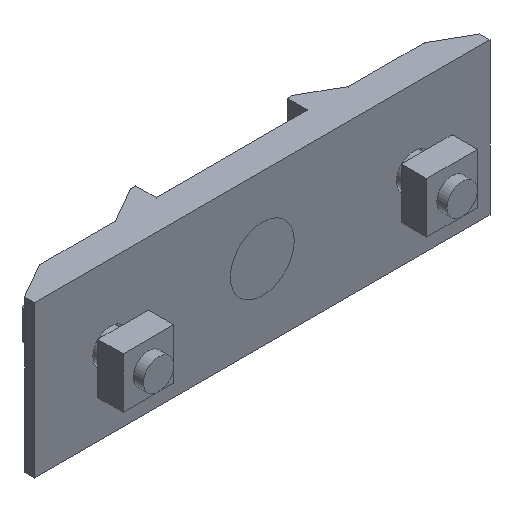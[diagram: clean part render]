
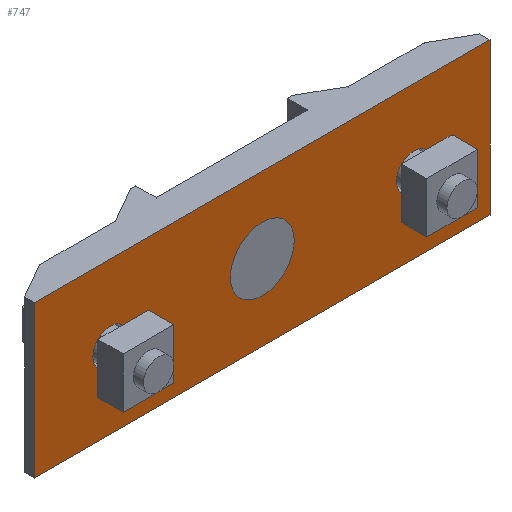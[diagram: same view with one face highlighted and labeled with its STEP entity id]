
A CAD part, isometric view. The second image highlights one B-rep face of the part: STEP entity #747.
In plain terms, the highlighted planar face has unit normal (0, -1, 0).
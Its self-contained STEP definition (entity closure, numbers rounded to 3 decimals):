
#123=CARTESIAN_POINT('',(-33.5,0.0,0.0));
#124=VERTEX_POINT('',#123);
#125=CARTESIAN_POINT('',(-30.,0.0,0.0));
#126=DIRECTION('',(0.0,1.0,0.0));
#127=DIRECTION('',(-1.0,0.0,0.0));
#128=AXIS2_PLACEMENT_3D('',#125,#126,#127);
#129=CIRCLE('',#128,3.5);
#130=EDGE_CURVE('',#124,#124,#129,.T.);
#172=CARTESIAN_POINT('',(33.5,0.0,0.0));
#173=VERTEX_POINT('',#172);
#174=CARTESIAN_POINT('',(30.,0.0,0.0));
#175=DIRECTION('',(0.0,1.0,0.0));
#176=DIRECTION('',(1.0,0.0,0.0));
#177=AXIS2_PLACEMENT_3D('',#174,#175,#176);
#178=CIRCLE('',#177,3.5);
#179=EDGE_CURVE('',#173,#173,#178,.T.);
#210=CARTESIAN_POINT('',(6.3,0.0,0.0));
#211=VERTEX_POINT('',#210);
#212=CARTESIAN_POINT('',(0.0,0.0,0.0));
#213=DIRECTION('',(0.0,1.0,0.0));
#214=DIRECTION('',(1.0,0.0,0.0));
#215=AXIS2_PLACEMENT_3D('',#212,#213,#214);
#216=CIRCLE('',#215,6.3);
#217=EDGE_CURVE('',#211,#211,#216,.T.);
#279=CARTESIAN_POINT('',(45.,0.0,-15.));
#280=VERTEX_POINT('',#279);
#289=CARTESIAN_POINT('',(-45.,0.0,-15.));
#290=VERTEX_POINT('',#289);
#291=CARTESIAN_POINT('',(-45.,0.0,-15.));
#292=DIRECTION('',(1.0,0.0,0.0));
#293=VECTOR('',#292,90.);
#294=LINE('',#291,#293);
#295=EDGE_CURVE('',#290,#280,#294,.T.);
#399=CARTESIAN_POINT('',(-45.,0.0,15.));
#400=VERTEX_POINT('',#399);
#416=CARTESIAN_POINT('',(-45.,0.0,15.));
#417=DIRECTION('',(0.0,0.0,-1.0));
#418=VECTOR('',#417,30.);
#419=LINE('',#416,#418);
#420=EDGE_CURVE('',#400,#290,#419,.T.);
#703=CARTESIAN_POINT('',(45.,0.0,15.));
#704=VERTEX_POINT('',#703);
#711=CARTESIAN_POINT('',(45.,0.0,-15.));
#712=DIRECTION('',(0.0,0.0,1.0));
#713=VECTOR('',#712,30.);
#714=LINE('',#711,#713);
#715=EDGE_CURVE('',#280,#704,#714,.T.);
#722=CARTESIAN_POINT('',(45.,0.0,0.0));
#723=DIRECTION('',(0.0,-1.0,0.0));
#724=DIRECTION('',(0.0,0.0,-1.0));
#725=AXIS2_PLACEMENT_3D('',#722,#723,#724);
#726=PLANE('',#725);
#727=CARTESIAN_POINT('',(45.,0.0,15.));
#728=DIRECTION('',(-1.0,0.0,0.0));
#729=VECTOR('',#728,90.);
#730=LINE('',#727,#729);
#731=EDGE_CURVE('',#704,#400,#730,.T.);
#732=ORIENTED_EDGE('',*,*,#731,.T.);
#733=ORIENTED_EDGE('',*,*,#420,.T.);
#734=ORIENTED_EDGE('',*,*,#295,.T.);
#735=ORIENTED_EDGE('',*,*,#715,.T.);
#736=EDGE_LOOP('',(#732,#733,#734,#735));
#737=FACE_OUTER_BOUND('',#736,.T.);
#738=ORIENTED_EDGE('',*,*,#130,.T.);
#739=EDGE_LOOP('',(#738));
#740=FACE_BOUND('',#739,.T.);
#741=ORIENTED_EDGE('',*,*,#179,.T.);
#742=EDGE_LOOP('',(#741));
#743=FACE_BOUND('',#742,.T.);
#744=ORIENTED_EDGE('',*,*,#217,.T.);
#745=EDGE_LOOP('',(#744));
#746=FACE_BOUND('',#745,.T.);
#747=ADVANCED_FACE('',(#737,#740,#743,#746),#726,.T.);
